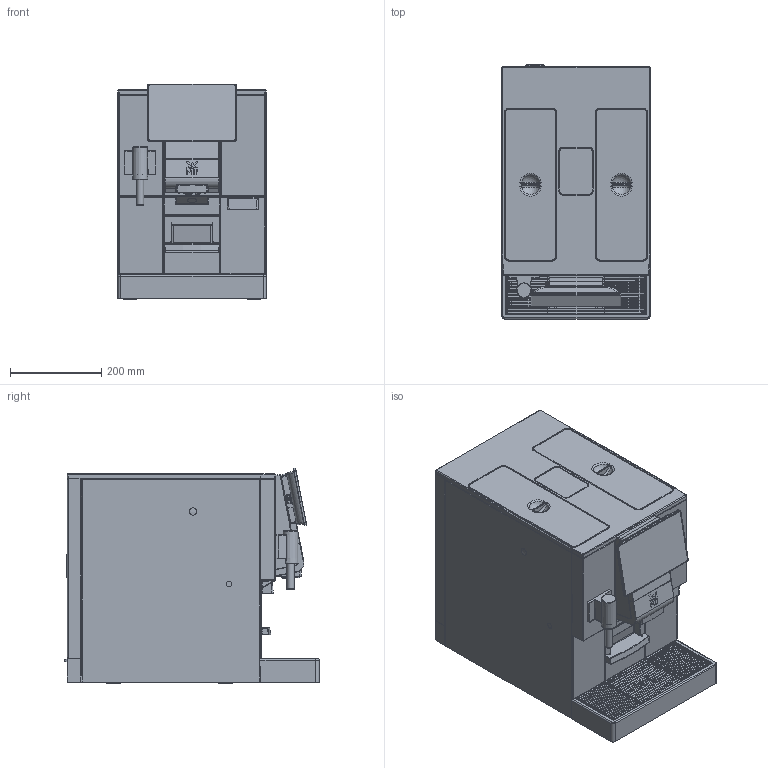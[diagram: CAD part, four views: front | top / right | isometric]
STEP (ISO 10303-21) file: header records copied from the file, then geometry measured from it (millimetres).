
FILE_DESCRIPTION(/* description */ (''),/* implementation_level */ '2;1');
FILE_NAME(/* name */ 'C:\Users\Andreas Mueller\Downloads\wmf\20260113\Daten_am\Finale_Version\Abgeleitete_ipt\03.1050.0000_3D.stp',/* time_stamp */ '2026-05-25T11:09:05+02:00',/* author */ (''),/* organization */ (''),/* preprocessor_version */ 'ST-DEVELOPER v18.1',/* originating_system */ 'Autodesk Inventor 2021',/* authorisation */ '');
FILE_SCHEMA (('AUTOMOTIVE_DESIGN { 1 0 10303 214 3 1 1 }'));
Products named in the file (1): 03.1050.0000_3D
Bounding box: 327.05 x 556.4 x 473.01 mm (x, y, z)
Volume: 67390090.8 mm3; surface area: 1506062.9 mm2
Topology: 3 solids, 3 shells, 3168 faces, 7995 edges, 4890 vertices
Faces by surface type: plane 1131, cylinder 1081, bspline 670, torus 107, cone 91, sphere 88
Full cylindrical faces by diameter (mm): 3 x21, 6.8 x1, 11.2 x1, 11.4 x1, 12 x1, 12.1 x1, 15.8 x1, 16 x2, 19.6 x1, 20 x5, 22 x4, 30 x4
Entity records: 114591 total; most frequent: CARTESIAN_POINT 39483, ORIENTED_EDGE 15914, DIRECTION 15563, EDGE_CURVE 7957, AXIS2_PLACEMENT_3D 5824, VERTEX_POINT 4894, LINE 3915, VECTOR 3915
